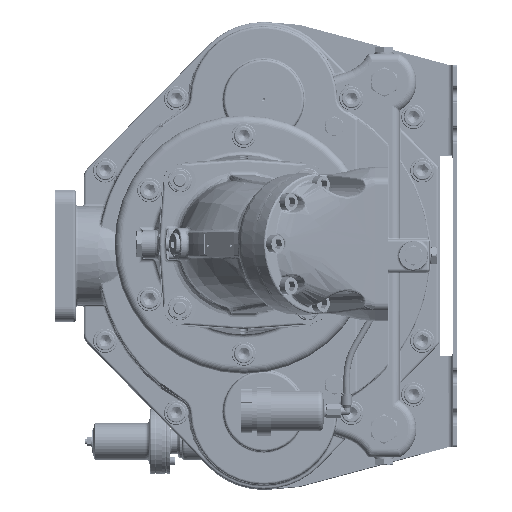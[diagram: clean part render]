
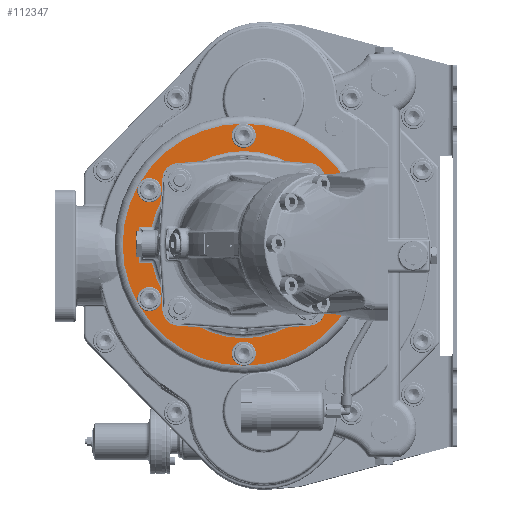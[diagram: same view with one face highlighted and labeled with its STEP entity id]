
A CAD part, top view. The second image highlights one B-rep face of the part: STEP entity #112347.
In plain terms, the highlighted planar face has unit normal (0, 0, 1) as drawn and (0, 1, 0) by its records, which use the part's own axes.
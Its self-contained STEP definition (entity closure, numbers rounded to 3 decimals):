
#4815=FACE_BOUND('',#19770,.T.);
#4816=FACE_BOUND('',#19771,.T.);
#4817=FACE_BOUND('',#19772,.T.);
#4818=FACE_BOUND('',#19773,.T.);
#4819=FACE_BOUND('',#19774,.T.);
#4820=FACE_BOUND('',#19775,.T.);
#4821=FACE_BOUND('',#19776,.T.);
#6950=PLANE('',#122891);
#12792=FACE_OUTER_BOUND('',#19769,.T.);
#19769=EDGE_LOOP('',(#95564));
#19770=EDGE_LOOP('',(#95565,#95566,#95567,#95568));
#19771=EDGE_LOOP('',(#95569));
#19772=EDGE_LOOP('',(#95570));
#19773=EDGE_LOOP('',(#95571));
#19774=EDGE_LOOP('',(#95572));
#19775=EDGE_LOOP('',(#95573));
#19776=EDGE_LOOP('',(#95574));
#28214=CIRCLE('',#122887,150.);
#28218=CIRCLE('',#122892,116.);
#28219=CIRCLE('',#122893,6.5);
#28220=CIRCLE('',#122894,6.5);
#28221=CIRCLE('',#122895,6.5);
#28222=CIRCLE('',#122896,6.5);
#28223=CIRCLE('',#122897,6.5);
#28224=CIRCLE('',#122898,6.5);
#34316=LINE('',#352145,#40950);
#34317=LINE('',#352149,#40951);
#34318=LINE('',#352150,#40952);
#40950=VECTOR('',#147296,10.);
#40951=VECTOR('',#147299,10.);
#40952=VECTOR('',#147300,10.);
#50710=VERTEX_POINT('',#352135);
#50713=VERTEX_POINT('',#352143);
#50714=VERTEX_POINT('',#352144);
#50715=VERTEX_POINT('',#352146);
#50716=VERTEX_POINT('',#352148);
#50717=VERTEX_POINT('',#352151);
#50718=VERTEX_POINT('',#352153);
#50719=VERTEX_POINT('',#352155);
#50720=VERTEX_POINT('',#352157);
#50721=VERTEX_POINT('',#352159);
#50722=VERTEX_POINT('',#352161);
#65886=EDGE_CURVE('',#50710,#50710,#28214,.T.);
#65890=EDGE_CURVE('',#50713,#50714,#34316,.T.);
#65891=EDGE_CURVE('',#50715,#50713,#28218,.T.);
#65892=EDGE_CURVE('',#50716,#50715,#34317,.T.);
#65893=EDGE_CURVE('',#50714,#50716,#34318,.T.);
#65894=EDGE_CURVE('',#50717,#50717,#28219,.T.);
#65895=EDGE_CURVE('',#50718,#50718,#28220,.T.);
#65896=EDGE_CURVE('',#50719,#50719,#28221,.T.);
#65897=EDGE_CURVE('',#50720,#50720,#28222,.T.);
#65898=EDGE_CURVE('',#50721,#50721,#28223,.T.);
#65899=EDGE_CURVE('',#50722,#50722,#28224,.T.);
#95564=ORIENTED_EDGE('',*,*,#65886,.F.);
#95565=ORIENTED_EDGE('',*,*,#65890,.F.);
#95566=ORIENTED_EDGE('',*,*,#65891,.F.);
#95567=ORIENTED_EDGE('',*,*,#65892,.F.);
#95568=ORIENTED_EDGE('',*,*,#65893,.F.);
#95569=ORIENTED_EDGE('',*,*,#65894,.T.);
#95570=ORIENTED_EDGE('',*,*,#65895,.T.);
#95571=ORIENTED_EDGE('',*,*,#65896,.T.);
#95572=ORIENTED_EDGE('',*,*,#65897,.T.);
#95573=ORIENTED_EDGE('',*,*,#65898,.T.);
#95574=ORIENTED_EDGE('',*,*,#65899,.T.);
#112347=ADVANCED_FACE('',(#12792,#4815,#4816,#4817,#4818,#4819,#4820,#4821),
#6950,.F.);
#122887=AXIS2_PLACEMENT_3D('',#352136,#147286,#147287);
#122891=AXIS2_PLACEMENT_3D('',#352142,#147294,#147295);
#122892=AXIS2_PLACEMENT_3D('',#352147,#147297,#147298);
#122893=AXIS2_PLACEMENT_3D('',#352152,#147301,#147302);
#122894=AXIS2_PLACEMENT_3D('',#352154,#147303,#147304);
#122895=AXIS2_PLACEMENT_3D('',#352156,#147305,#147306);
#122896=AXIS2_PLACEMENT_3D('',#352158,#147307,#147308);
#122897=AXIS2_PLACEMENT_3D('',#352160,#147309,#147310);
#122898=AXIS2_PLACEMENT_3D('',#352162,#147311,#147312);
#147286=DIRECTION('center_axis',(0.,-1.,0.));
#147287=DIRECTION('ref_axis',(-1.,0.,0.));
#147294=DIRECTION('center_axis',(0.,-1.,0.));
#147295=DIRECTION('ref_axis',(0.,0.,-1.));
#147296=DIRECTION('',(0.,0.,-1.));
#147297=DIRECTION('center_axis',(0.,1.,0.));
#147298=DIRECTION('ref_axis',(0.,0.,1.));
#147299=DIRECTION('',(0.,0.,1.));
#147300=DIRECTION('',(-1.,0.,0.));
#147301=DIRECTION('center_axis',(0.,-1.,0.));
#147302=DIRECTION('ref_axis',(1.,0.,0.));
#147303=DIRECTION('center_axis',(0.,-1.,0.));
#147304=DIRECTION('ref_axis',(1.,0.,0.));
#147305=DIRECTION('center_axis',(0.,-1.,0.));
#147306=DIRECTION('ref_axis',(1.,0.,0.));
#147307=DIRECTION('center_axis',(0.,-1.,0.));
#147308=DIRECTION('ref_axis',(1.,0.,0.));
#147309=DIRECTION('center_axis',(0.,-1.,0.));
#147310=DIRECTION('ref_axis',(1.,0.,0.));
#147311=DIRECTION('center_axis',(0.,-1.,0.));
#147312=DIRECTION('ref_axis',(1.,0.,0.));
#352135=CARTESIAN_POINT('',(0.,20.,-150.));
#352136=CARTESIAN_POINT('Origin',(0.,20.,0.));
#352142=CARTESIAN_POINT('Origin',(0.,20.,0.));
#352143=CARTESIAN_POINT('',(22.5,20.,-113.797));
#352144=CARTESIAN_POINT('',(22.5,20.,-130.));
#352145=CARTESIAN_POINT('',(22.5,20.,-62.5));
#352146=CARTESIAN_POINT('',(-22.5,20.,-113.797));
#352147=CARTESIAN_POINT('Origin',(0.,20.,0.));
#352148=CARTESIAN_POINT('',(-22.5,20.,-130.));
#352149=CARTESIAN_POINT('',(-22.5,20.,-62.5));
#352150=CARTESIAN_POINT('',(0.,20.,-130.));
#352151=CARTESIAN_POINT('',(61.,20.,-116.913));
#352152=CARTESIAN_POINT('Origin',(67.5,20.,-116.913));
#352153=CARTESIAN_POINT('',(61.,20.,116.913));
#352154=CARTESIAN_POINT('Origin',(67.5,20.,116.913));
#352155=CARTESIAN_POINT('',(-141.5,20.,0.));
#352156=CARTESIAN_POINT('Origin',(-135.,20.,0.));
#352157=CARTESIAN_POINT('',(-74.,20.,-116.913));
#352158=CARTESIAN_POINT('Origin',(-67.5,20.,-116.913));
#352159=CARTESIAN_POINT('',(-74.,20.,116.913));
#352160=CARTESIAN_POINT('Origin',(-67.5,20.,116.913));
#352161=CARTESIAN_POINT('',(128.5,20.,0.));
#352162=CARTESIAN_POINT('Origin',(135.,20.,0.));
